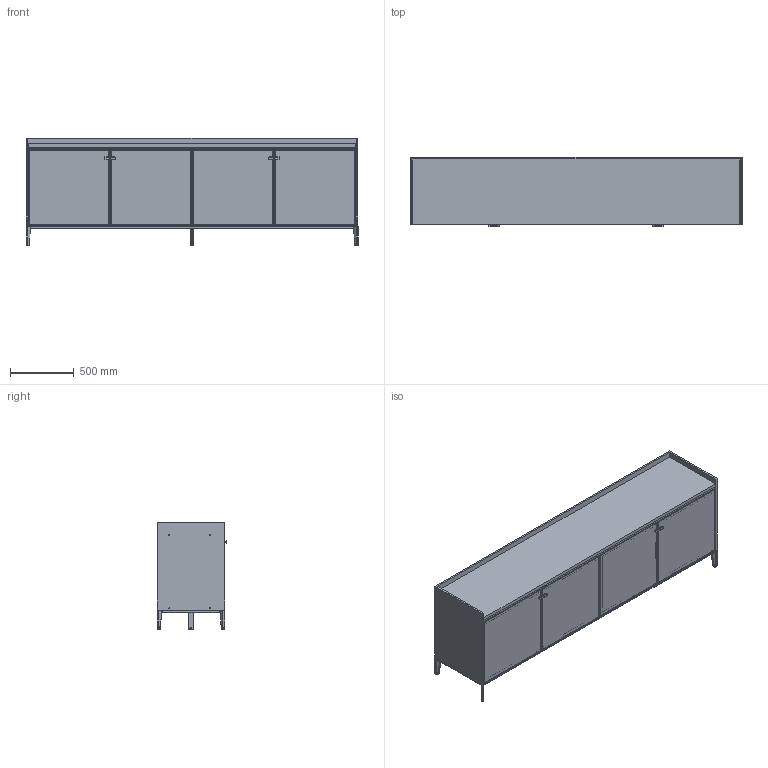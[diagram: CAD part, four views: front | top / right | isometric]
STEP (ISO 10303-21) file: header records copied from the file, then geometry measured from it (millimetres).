
FILE_DESCRIPTION(/* description */ (''),/* implementation_level */ '2;1');
FILE_NAME(/* name */ '3D_Segesta-260',/* time_stamp */ '2025-04-04T17:30:01+02:00',/* author */ (''),/* organization */ (''),/* preprocessor_version */ 'ST-DEVELOPER v16.5',/* originating_system */ '',/* authorisation */ '');
FILE_SCHEMA (('AUTOMOTIVE_DESIGN'));
Products named in the file (1): Document
Bounding box: 2604 x 547.66 x 845 mm (x, y, z)
Volume: 199861502.6 mm3; surface area: 26789631.5 mm2
Topology: 52 solids, 52 shells, 2072 faces, 5659 edges, 3639 vertices
Faces by surface type: bspline 1131, plane 941
Entity records: 91144 total; most frequent: CARTESIAN_POINT 57360, ORIENTED_EDGE 11216, EDGE_CURVE 5608, VERTEX_POINT 3636, B_SPLINE_CURVE_WITH_KNOTS 3521, EDGE_LOOP 2224, ADVANCED_FACE 2072, FACE_OUTER_BOUND 2072
